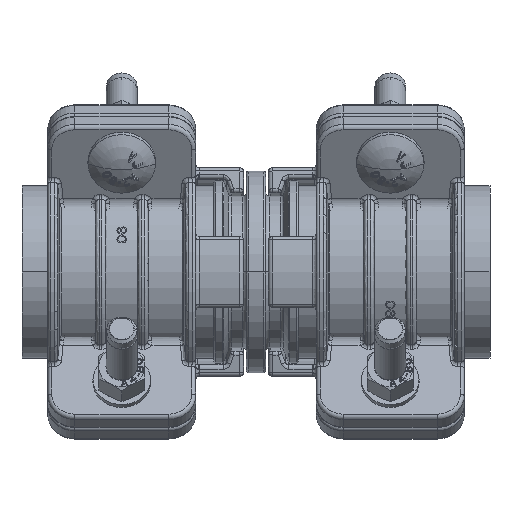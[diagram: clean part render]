
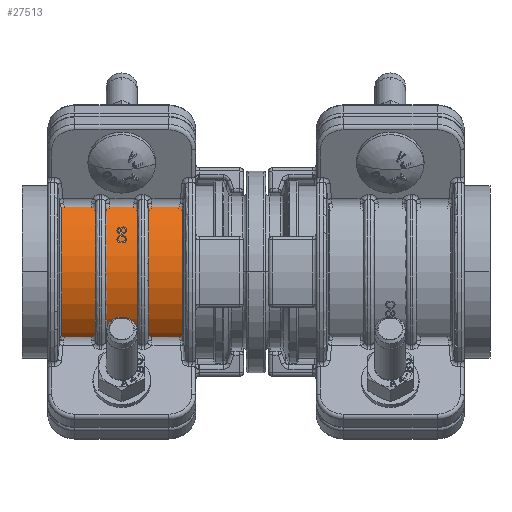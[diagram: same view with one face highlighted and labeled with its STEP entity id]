
A CAD part, front view. The second image highlights one B-rep face of the part: STEP entity #27513.
In plain terms, the highlighted cylindrical face has radius 49.25 mm (diameter 98.5 mm), a partial arc.
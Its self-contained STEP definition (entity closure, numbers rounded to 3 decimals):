
#27472=CARTESIAN_POINT('',(102.,0.,0.));
#27473=DIRECTION('',(1.,0.,0.));
#27474=DIRECTION('',(0.,0.766,-0.643));
#27475=AXIS2_PLACEMENT_3D('',#27472,#27473,#27474);
#27477=DIRECTION('',(-1.,0.,0.));
#27478=VECTOR('',#27477,77.);
#27479=CARTESIAN_POINT('',(102.,8.552,48.502));
#27480=LINE('',#27479,#27478);
#27481=CARTESIAN_POINT('',(25.,0.,0.));
#27482=DIRECTION('',(-1.,0.,0.));
#27483=DIRECTION('',(0.,0.174,0.985));
#27484=AXIS2_PLACEMENT_3D('',#27481,#27482,#27483);
#27486=DIRECTION('',(1.,0.,0.));
#27487=VECTOR('',#27486,77.);
#27488=CARTESIAN_POINT('',(25.,37.728,-31.657));
#27489=LINE('',#27488,#27487);
#27490=CARTESIAN_POINT('',(102.,37.728,-31.657));
#27491=CARTESIAN_POINT('',(102.,8.552,48.502));
#27492=VERTEX_POINT('',#27490);
#27493=VERTEX_POINT('',#27491);
#27494=CARTESIAN_POINT('',(25.,37.728,-31.657));
#27495=CARTESIAN_POINT('',(25.,8.552,48.502));
#27496=VERTEX_POINT('',#27494);
#27497=VERTEX_POINT('',#27495);
#27498=CARTESIAN_POINT('',(102.,0.,0.));
#27499=DIRECTION('',(1.,0.,0.));
#27500=DIRECTION('',(0.,0.342,-0.94));
#27501=AXIS2_PLACEMENT_3D('',#27498,#27499,#27500);
#27502=CYLINDRICAL_SURFACE('',#27501,49.25);
#27504=ORIENTED_EDGE('',*,*,#27503,.T.);
#27506=ORIENTED_EDGE('',*,*,#27505,.T.);
#27508=ORIENTED_EDGE('',*,*,#27507,.T.);
#27510=ORIENTED_EDGE('',*,*,#27509,.T.);
#27511=EDGE_LOOP('',(#27504,#27506,#27508,#27510));
#27512=FACE_OUTER_BOUND('',#27511,.F.);
#27513=ADVANCED_FACE('',(#27512),#27502,.T.);
#27476=CIRCLE('',#27475,49.25);
#27485=CIRCLE('',#27484,49.25);
#27503=EDGE_CURVE('',#27492,#27493,#27476,.T.);
#27505=EDGE_CURVE('',#27493,#27497,#27480,.T.);
#27507=EDGE_CURVE('',#27497,#27496,#27485,.T.);
#27509=EDGE_CURVE('',#27496,#27492,#27489,.T.);
